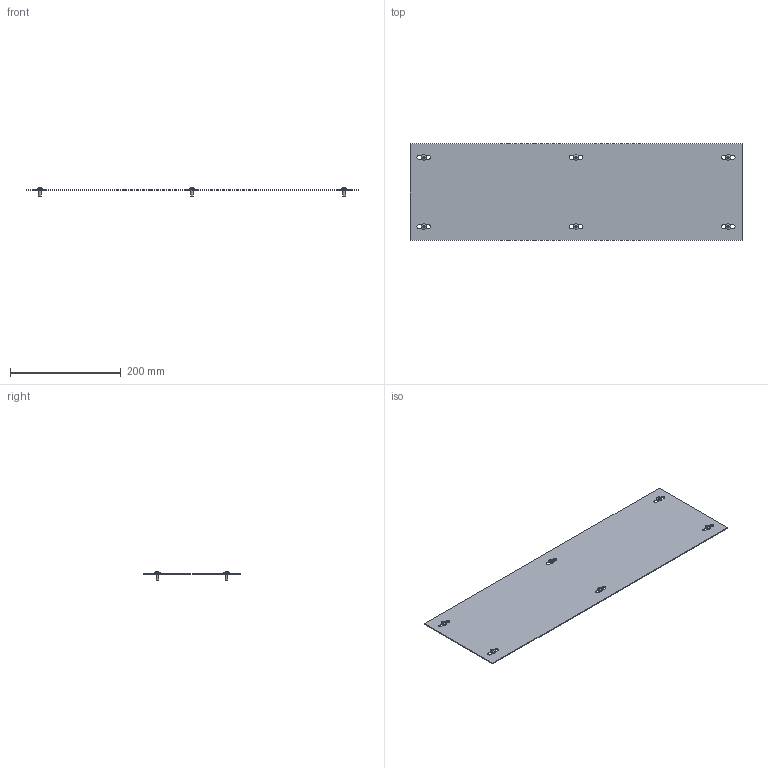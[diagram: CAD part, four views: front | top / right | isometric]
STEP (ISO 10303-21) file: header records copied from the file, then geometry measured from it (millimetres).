
FILE_DESCRIPTION(('Open CASCADE Model'),'2;1');
FILE_NAME('Open CASCADE Shape Model','2025-03-28T17:53:17',('Author'),( 'Open CASCADE'),'Open CASCADE STEP processor 7.8','Open CASCADE 7.8' ,'Unknown');
FILE_SCHEMA(('AUTOMOTIVE_DESIGN { 1 0 10303 214 1 1 1 1 }'));
Length unit declared in the file: millimetre
Products named in the file (3): Compound1; Solid1; Solid2
Assembly tree (7 placements, depth 2):
  Compound1
    Solid1
    Solid2  x6
Bounding box: 600 x 175 x 15.56 mm (x, y, z)
Volume: 158663.5 mm3; surface area: 213551.3 mm2
Topology: 7 solids, 7 shells, 126 faces, 264 edges, 158 vertices
Faces by surface type: plane 66, cylinder 24, torus 12, cone 12, sphere 6, bspline 6
Full cylindrical faces by diameter (mm): 5 x6, 9.5 x6
Entity records: 1804 total; most frequent: CARTESIAN_POINT 612, DIRECTION 242, ORIENTED_EDGE 226, EDGE_CURVE 113, AXIS2_PLACEMENT_3D 91, VERTEX_POINT 73, FACE_BOUND 60, EDGE_LOOP 60
